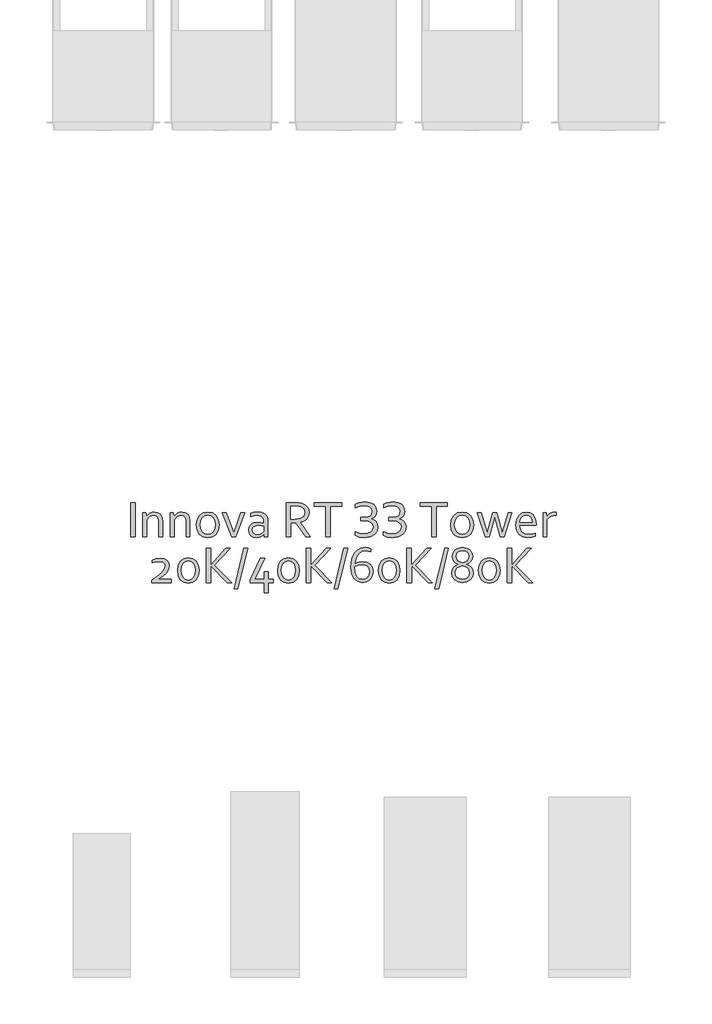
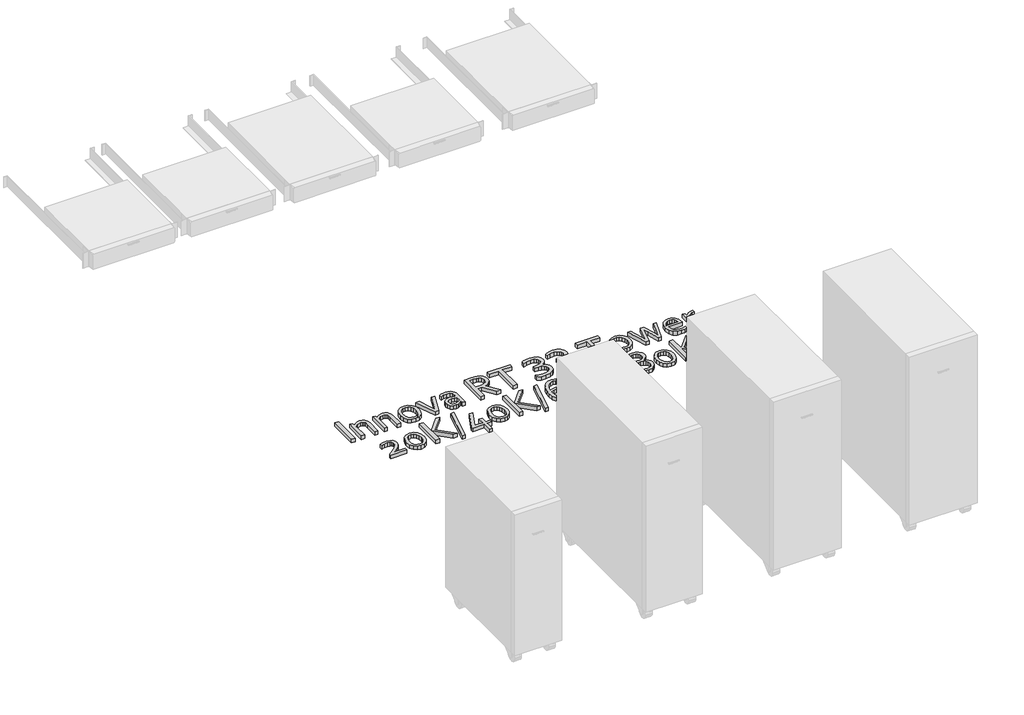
# One storey, part 7 of 10: 1 proxy.
"""IFC4 building model written with IfcOpenShell, lengths in millimetres."""

from ifc_helpers import new_model, si_unit, origin, origin_with_axes, place, context, project, spatial, polyline, outline, extrude, element, save

model = new_model("IFC4")

# Units and contexts
model_context = context("Model", 3, world=origin())
ifc_project = project(units=[si_unit("LENGTHUNIT", "METRE", prefix="MILLI")], contexts=[model_context])

# Site, building, storey
site = spatial("IfcSite", under=ifc_project)
building = spatial("IfcBuilding", under=site)
storey = spatial("IfcBuildingStorey", under=building, Name="Этаж 01", Elevation=0.0)

# Proxy
placement = place(None, origin())
element("IfcBuildingElementProxy", 1, Name="150 мм Corbel", ObjectType="150 мм Corbel", at=placement, inside=storey, context=model_context, shape_type="SweptSolid", body=[
    extrude(outline(polyline([(7939.4925994, -3344.4864996), (7939.4925994, -3193.2852077), (7959.0927668, -3193.2852077), (7959.0927668, -3344.4864996), (7939.4925994, -3344.4864996)])), origin_with_axes(), (0.0, 0.0, 1.0), 20.0),
    extrude(outline(polyline([(8009.4056967, -3252.8732169), (8016.1213791, -3246.0044082), (8023.9745712, -3240.3824851), (8033.4902775, -3236.619953), (8044.7559987, -3235.2855666), (8058.362365, -3237.2980838), (8069.365584, -3243.7950143), (8076.7593972, -3255.4982393), (8079.4937955, -3273.260891), (8079.4937955, -3344.4864996), (8062.693652, -3344.4864996), (8062.693652, -3275.4046594), (8061.348328, -3263.4444009), (8057.312356, -3255.3888633), (8050.7060496, -3250.8114805), (8041.6497222, -3249.2856862), (8024.1058223, -3254.5138559), (8009.4931974, -3268.8858537), (8009.4931974, -3344.4864996), (7992.6930539, -3344.4864996), (7992.6930539, -3238.0855905), (8006.0369179, -3238.0855905), (8009.4056967, -3252.8732169)])), origin_with_axes(), (0.0, 0.0, 1.0), 20.0),
    extrude(outline(polyline([(8129.8067254, -3252.8732169), (8136.5224078, -3246.0044082), (8144.3755999, -3240.3824851), (8153.8913062, -3236.619953), (8165.1570274, -3235.2855666), (8178.7633937, -3237.2980838), (8189.7666127, -3243.7950143), (8197.1604258, -3255.4982393), (8199.8948242, -3273.260891), (8199.8948242, -3344.4864996), (8183.0946807, -3344.4864996), (8183.0946807, -3275.4046594), (8181.7493567, -3263.4444009), (8177.7133847, -3255.3888633), (8171.1070782, -3250.8114805), (8162.0507509, -3249.2856862), (8144.506851, -3254.5138559), (8129.8942261, -3268.8858537), (8129.8942261, -3344.4864996), (8113.0940826, -3344.4864996), (8113.0940826, -3238.0855905), (8126.4379466, -3238.0855905), (8129.8067254, -3252.8732169)])), origin_with_axes(), (0.0, 0.0, 1.0), 20.0),
    extrude(outline(polyline([(8328.6959247, -3291.4172962), (8325.1302692, -3314.2331161), (8315.0239328, -3331.8863919), (8299.2081727, -3343.2614891), (8278.4267452, -3347.2865235), (8257.2296891, -3343.2614891), (8241.3483034, -3331.8863919), (8231.351343, -3314.2331161), (8227.8950634, -3291.4172962), (8231.4607189, -3268.4264747), (8241.5670552, -3250.7294485), (8257.4484409, -3239.310601), (8278.295494, -3235.2855666), (8299.4050494, -3239.310601), (8315.2864351, -3250.7294485), (8325.2396451, -3268.4264747), (8328.6959247, -3291.4172962)]), holes=[polyline([(8311.8957811, -3291.4172962), (8309.4020098, -3273.5452685), (8302.4238252, -3260.3107804), (8291.7706092, -3252.0857101), (8278.295494, -3249.2856862), (8264.8203789, -3252.0857101), (8254.1671629, -3260.3107804), (8247.1889783, -3273.5452685), (8244.695207, -3291.4172962), (8247.1889783, -3309.1580727), (8254.2327885, -3322.3269353), (8264.9297549, -3330.48638), (8278.4267452, -3333.2864039), (8291.8362347, -3330.48638), (8302.4238252, -3322.3269353), (8309.4020098, -3309.1580727), (8311.8957811, -3291.4172962)])]), origin_with_axes(), (0.0, 0.0, 1.0), 20.0),
    extrude(outline(polyline([(8391.6089622, -3326.8988493), (8402.3715541, -3297.2360959), (8423.896738, -3238.0855905), (8440.6968816, -3238.0855905), (8400.6652896, -3344.4864996), (8382.7276363, -3344.4864996), (8342.6960443, -3238.0855905), (8359.4961878, -3238.0855905), (8380.8901206, -3297.2360959), (8391.6089622, -3326.8988493)])), origin_with_axes(), (0.0, 0.0, 1.0), 20.0),
    extrude(outline(polyline([(8525.2226037, -3332.717649), (8519.4256792, -3338.0333194), (8512.0099909, -3342.7583598), (8502.8224124, -3346.061513), (8492.1910715, -3347.2865235), (8478.1690767, -3345.0333793), (8467.2096081, -3338.4051976), (8460.056422, -3327.7519816), (8457.4970251, -3313.5112349), (8460.3407994, -3299.5111153), (8468.3033674, -3289.0329008), (8480.6190977, -3282.4047192), (8496.5223585, -3280.0859494), (8511.7693638, -3281.5734621), (8524.2600955, -3284.9422408), (8524.6975993, -3277.3296758), (8524.1288444, -3268.9952296), (8522.203828, -3262.6295502), (8512.9287487, -3253.0700935), (8495.6473511, -3249.2856862), (8480.4440962, -3250.7731989), (8466.2908502, -3254.885734), (8466.2908502, -3241.1918671), (8472.6127793, -3238.8074717), (8480.2909699, -3236.9043304), (8488.8004176, -3235.7011951), (8497.7911194, -3235.2855666), (8512.4256194, -3236.7129225), (8524.0413437, -3240.9949904), (8532.7039177, -3247.6286408), (8538.478967, -3256.1107445), (8540.7977368, -3264.007687), (8541.4977428, -3273.4796429), (8541.4977428, -3344.4864996), (8527.1038698, -3344.4864996), (8525.2226037, -3332.717649)]), holes=[polyline([(8524.6975993, -3298.067353), (8513.081875, -3295.4642057), (8498.3161239, -3294.086069), (8480.662848, -3298.8548597), (8475.8885885, -3304.9033489), (8474.2971686, -3313.5112349), (8475.8940573, -3322.2613097), (8480.2690947, -3328.4519876), (8486.8535259, -3332.0832686), (8494.9910955, -3333.2864039), (8505.5786859, -3331.6457649), (8514.2850103, -3327.7301064), (8520.7600656, -3323.1800675), (8524.6975993, -3319.6362873), (8524.6975993, -3298.067353)])]), origin_with_axes(), (0.0, 0.0, 1.0), 20.0),
    extrude(outline(polyline([(8642.298604, -3282.8859733), (8642.298604, -3344.4864996), (8622.6984366, -3344.4864996), (8622.6984366, -3193.2852077), (8661.6800196, -3193.2852077), (8678.4801632, -3194.0289641), (8691.1240212, -3196.3914843), (8705.0147649, -3202.2540344), (8715.1867268, -3211.1791106), (8721.421155, -3222.9370236), (8723.4992978, -3237.2980838), (8720.5898979, -3253.8794755), (8712.408578, -3266.5670839), (8699.7865952, -3275.360909), (8683.4677058, -3280.392202), (8729.0993456, -3344.4864996), (8709.4991782, -3344.4864996), (8664.0425398, -3282.8859733), (8642.298604, -3282.8859733)]), holes=[polyline([(8642.298604, -3210.0853513), (8642.298604, -3266.0858297), (8659.973755, -3266.0858297), (8674.017625, -3265.5170749), (8684.4739644, -3263.4608073), (8698.8459622, -3253.9669762), (8703.8991303, -3236.9480808), (8699.064714, -3221.1104455), (8686.0052274, -3212.4916218), (8676.5770219, -3210.6541061), (8662.5987775, -3210.0853513), (8642.298604, -3210.0853513)])]), origin_with_axes(), (0.0, 0.0, 1.0), 20.0),
    extrude(outline(polyline([(8815.9000872, -3344.4864996), (8796.2999198, -3344.4864996), (8796.2999198, -3210.0853513), (8746.2057418, -3210.0853513), (8746.2057418, -3193.2852077), (8865.9942652, -3193.2852077), (8865.9942652, -3210.0853513), (8815.9000872, -3210.0853513), (8815.9000872, -3344.4864996)])), origin_with_axes(), (0.0, 0.0, 1.0), 20.0),
    extrude(outline(polyline([(8927.0697871, -3199.9790149), (8934.6823521, -3196.5664858), (8944.3730599, -3193.5695852), (8955.857533, -3191.3601913), (8968.7638933, -3190.4851838), (8990.6828306, -3193.2852077), (9006.8704689, -3201.3790269), (9016.8893045, -3214.263512), (9020.3018336, -3231.5667848), (9018.3330668, -3244.0356413), (9013.0173964, -3253.5732228), (9005.1860795, -3260.4857819), (8995.7578739, -3265.0358208), (9007.1329711, -3269.6733604), (9016.4518007, -3276.5421691), (9023.1674831, -3286.6703806), (9025.9018815, -3300.4298732), (9022.4237267, -3318.5862783), (9011.5080085, -3333.5051558), (8992.6297222, -3343.5677417), (8965.1763626, -3347.2865235), (8942.7761713, -3344.9021281), (8924.9260187, -3338.1426954), (8924.9260187, -3321.8675563), (8942.513669, -3328.145735), (8963.0325943, -3330.48638), (8981.8124423, -3328.5066756), (8995.3641206, -3322.5675623), (9003.5673156, -3312.9643553), (9006.301714, -3299.9923694), (9003.906381, -3289.1750895), (8996.7203821, -3281.1359583), (8984.7437173, -3276.1484157), (8967.9763866, -3274.4859015), (8951.0449919, -3274.4859015), (8951.0449919, -3257.685758), (8966.3138724, -3257.685758), (8982.895264, -3255.8263671), (8993.4828545, -3250.6200726), (8999.0829023, -3242.7012549), (9000.7016662, -3232.7480449), (8998.689149, -3222.4229567), (8992.4109703, -3214.3510127), (8981.604628, -3209.1447182), (8965.8326182, -3207.2853274), (8945.9480734, -3209.582222), (8927.0697871, -3215.6853991), (8927.0697871, -3199.9790149)])), origin_with_axes(), (0.0, 0.0, 1.0), 20.0),
    extrude(outline(polyline([(9050.2708397, -3199.9790149), (9057.8834047, -3196.5664858), (9067.5741125, -3193.5695852), (9079.0585856, -3191.3601913), (9091.9649459, -3190.4851838), (9113.8838832, -3193.2852077), (9130.0715215, -3201.3790269), (9140.0903571, -3214.263512), (9143.5028862, -3231.5667848), (9141.5341194, -3244.0356413), (9136.218449, -3253.5732228), (9128.3871321, -3260.4857819), (9118.9589265, -3265.0358208), (9130.3340237, -3269.6733604), (9139.6528533, -3276.5421691), (9146.3685357, -3286.6703806), (9149.1029341, -3300.4298732), (9145.6247794, -3318.5862783), (9134.7090611, -3333.5051558), (9115.8307748, -3343.5677417), (9088.3774152, -3347.2865235), (9065.9772239, -3344.9021281), (9048.1270714, -3338.1426954), (9048.1270714, -3321.8675563), (9065.7147216, -3328.145735), (9086.2336469, -3330.48638), (9105.0134949, -3328.5066756), (9118.5651732, -3322.5675623), (9126.7683682, -3312.9643553), (9129.5027666, -3299.9923694), (9127.1074336, -3289.1750895), (9119.9214347, -3281.1359583), (9107.9447699, -3276.1484157), (9091.1774392, -3274.4859015), (9074.2460445, -3274.4859015), (9074.2460445, -3257.685758), (9089.514925, -3257.685758), (9106.0963166, -3255.8263671), (9116.6839071, -3250.6200726), (9122.2839549, -3242.7012549), (9123.9027188, -3232.7480449), (9121.8902016, -3222.4229567), (9115.6120229, -3214.3510127), (9104.8056806, -3209.1447182), (9089.0336709, -3207.2853274), (9069.149126, -3209.582222), (9050.2708397, -3215.6853991), (9050.2708397, -3199.9790149)])), origin_with_axes(), (0.0, 0.0, 1.0), 20.0),
    extrude(outline(polyline([(9280.7040584, -3344.4864996), (9261.103891, -3344.4864996), (9261.103891, -3210.0853513), (9211.009713, -3210.0853513), (9211.009713, -3193.2852077), (9330.7982364, -3193.2852077), (9330.7982364, -3210.0853513), (9280.7040584, -3210.0853513), (9280.7040584, -3344.4864996)])), origin_with_axes(), (0.0, 0.0, 1.0), 20.0),
    extrude(outline(polyline([(9445.9054699, -3291.4172962), (9442.3398144, -3314.2331161), (9432.2334781, -3331.8863919), (9416.417718, -3343.2614891), (9395.6362904, -3347.2865235), (9374.4392343, -3343.2614891), (9358.5578486, -3331.8863919), (9348.5608882, -3314.2331161), (9345.1046087, -3291.4172962), (9348.6702641, -3268.4264747), (9358.7766005, -3250.7294485), (9374.6579862, -3239.310601), (9395.5050393, -3235.2855666), (9416.6145946, -3239.310601), (9432.4959803, -3250.7294485), (9442.4491904, -3268.4264747), (9445.9054699, -3291.4172962)]), holes=[polyline([(9429.1053264, -3291.4172962), (9426.6115551, -3273.5452685), (9419.6333704, -3260.3107804), (9408.9801544, -3252.0857101), (9395.5050393, -3249.2856862), (9382.0299242, -3252.0857101), (9371.3767081, -3260.3107804), (9364.3985235, -3273.5452685), (9361.9047522, -3291.4172962), (9364.3985235, -3309.1580727), (9371.4423337, -3322.3269353), (9382.1393001, -3330.48638), (9395.6362904, -3333.2864039), (9409.04578, -3330.48638), (9419.6333704, -3322.3269353), (9426.6115551, -3309.1580727), (9429.1053264, -3291.4172962)])]), origin_with_axes(), (0.0, 0.0, 1.0), 20.0),
    extrude(outline(polyline([(9538.2187586, -3255.6732408), (9531.6124522, -3281.0047072), (9514.506056, -3344.4864996), (9497.0496569, -3344.4864996), (9462.7056134, -3238.0855905), (9479.505757, -3238.0855905), (9499.7184297, -3304.3674068), (9505.7997316, -3325.3238359), (9512.1435358, -3302.048637), (9529.9061876, -3238.0855905), (9546.7063311, -3238.0855905), (9565.4314911, -3302.048637), (9571.6877946, -3325.3238359), (9577.9003476, -3304.3674068), (9597.1067617, -3238.0855905), (9613.9069053, -3238.0855905), (9579.5628618, -3344.4864996), (9561.9314612, -3344.4864996), (9544.7813147, -3281.0047072), (9538.2187586, -3255.6732408)])), origin_with_axes(), (0.0, 0.0, 1.0), 20.0),
    extrude(outline(polyline([(9686.0512717, -3333.2864039), (9701.8232814, -3331.8207664), (9716.0202777, -3327.686356), (9716.0202777, -3341.5114742), (9701.888907, -3345.7333852), (9683.8200026, -3347.2865235), (9662.3604443, -3344.3771236), (9645.3415488, -3334.9707933), (9634.5352065, -3317.9956482), (9630.7070488, -3292.7298074), (9634.6883328, -3267.4858417), (9645.2759233, -3249.6356892), (9660.5010534, -3238.8730972), (9678.482457, -3235.2855666), (9694.9763479, -3238.2168416), (9708.2764616, -3247.4481705), (9717.1796626, -3263.7014344), (9720.4390655, -3287.5672633), (9720.4390655, -3289.8204075), (9720.3078143, -3294.086069), (9646.5884345, -3294.086069), (9649.6728359, -3312.2862245), (9658.0947828, -3324.405078), (9670.6073897, -3331.1645108), (9686.0512717, -3333.2864039)]), holes=[polyline([(9677.7387006, -3249.2856862), (9666.2323523, -3251.7138319), (9656.9572731, -3258.3201384), (9650.5259681, -3268.0983469), (9647.5071923, -3280.0859494), (9703.5076708, -3280.0859494), (9701.8232814, -3267.988971), (9696.857614, -3258.2107625), (9688.8075452, -3251.6700816), (9677.7387006, -3249.2856862)])]), origin_with_axes(), (0.0, 0.0, 1.0), 20.0),
    extrude(outline(polyline([(9808.9023213, -3249.2856862), (9795.4709565, -3250.4450711), (9784.3146112, -3253.9669762), (9774.9082808, -3259.8076511), (9767.908221, -3268.0108462), (9767.908221, -3344.4864996), (9751.1080775, -3344.4864996), (9751.1080775, -3238.0855905), (9764.1019385, -3238.0855905), (9767.3394662, -3255.0169852), (9773.989523, -3247.273169), (9782.4552203, -3240.9949904), (9792.7803085, -3236.7949545), (9804.5710343, -3235.2855666), (9806.8460537, -3235.329317), (9808.9023213, -3235.4605681), (9808.9023213, -3249.2856862)])), origin_with_axes(), (0.0, 0.0, 1.0), 20.0),
    extrude(outline(polyline([(8061.0748882, -3531.3243143), (8084.2625863, -3530.8868106), (8117.9503741, -3530.8868106), (8117.9503741, -3544.8869302), (8032.6808956, -3544.8869302), (8032.6808956, -3535.3493487), (8056.4592237, -3517.5648218), (8075.2281341, -3501.7490616), (8087.6094899, -3487.0051857), (8092.0939032, -3472.5675623), (8090.5243585, -3463.9596763), (8085.8157245, -3457.6486848), (8078.1648779, -3453.7767768), (8067.7686953, -3452.4861407), (8050.7935503, -3454.0830294), (8033.8184053, -3458.0861886), (8033.8184053, -3446.0110854), (8049.5685398, -3440.7391654), (8070.1312155, -3438.4860211), (8086.2751035, -3440.7172902), (8098.5033329, -3447.2142207), (8106.1815235, -3457.7580608), (8108.8940467, -3472.2613097), (8105.3502664, -3488.6239495), (8095.5501827, -3503.2365743), (8080.3250526, -3517.0616925), (8061.0748882, -3531.3243143)])), origin_with_axes(), (0.0, 0.0, 1.0), 20.0),
    extrude(outline(polyline([(8240.4951711, -3491.8177268), (8237.2795186, -3513.9116655), (8227.9388138, -3531.6524421), (8213.0418115, -3543.4212927), (8192.9822651, -3547.6869541), (8172.5289654, -3543.4212927), (8157.5663376, -3531.6524421), (8148.4006342, -3513.9116655), (8145.2943577, -3491.8177268), (8148.5100102, -3469.5706617), (8157.850715, -3451.7642596), (8172.8133428, -3439.9516586), (8192.8947644, -3435.6859972), (8213.2605634, -3439.9516586), (8228.2231912, -3451.7642596), (8237.3888945, -3469.5706617), (8240.4951711, -3491.8177268)]), holes=[polyline([(8223.6950275, -3491.8177268), (8221.5075089, -3474.164451), (8215.316831, -3460.9299629), (8205.6479984, -3452.5955167), (8192.8947644, -3449.6861168), (8180.1415304, -3452.5955167), (8170.4289475, -3460.9299629), (8164.2382696, -3474.164451), (8162.0945012, -3491.8177268), (8164.2820199, -3509.3178763), (8170.4726978, -3522.508614), (8180.207156, -3530.7774346), (8193.0260155, -3533.6868345), (8205.7573743, -3530.7774346), (8215.4262069, -3522.508614), (8221.5512592, -3509.3178763), (8223.6950275, -3491.8177268)])]), origin_with_axes(), (0.0, 0.0, 1.0), 20.0),
    extrude(outline(polyline([(8271.2954342, -3544.8869302), (8271.2954342, -3393.6856384), (8290.8956017, -3393.6856384), (8290.8956017, -3468.3675264), (8358.0961758, -3393.6856384), (8377.6963433, -3393.6856384), (8307.7394956, -3468.9362813), (8383.2963912, -3544.8869302), (8363.6962237, -3544.8869302), (8291.1143536, -3470.8612977), (8291.1143536, -3544.8869302), (8271.2954342, -3544.8869302)])), origin_with_axes(), (0.0, 0.0, 1.0), 20.0),
    extrude(outline(polyline([(8393.7089801, -3572.8871694), (8436.3218442, -3393.6856384), (8452.9032359, -3393.6856384), (8410.2903718, -3572.8871694), (8393.7089801, -3572.8871694)])), origin_with_axes(), (0.0, 0.0, 1.0), 20.0),
    extrude(outline(polyline([(8484.9285095, -3530.8868106), (8501.5536515, -3530.8868106), (8526.0976112, -3530.8868106), (8526.0976112, -3496.8052694), (8542.8977548, -3496.8052694), (8542.8977548, -3530.8868106), (8564.9916935, -3530.8868106), (8564.9916935, -3545.9369392), (8542.8977548, -3545.9369392), (8542.8977548, -3589.687313), (8526.0976112, -3589.687313), (8526.0976112, -3544.8869302), (8465.1095902, -3544.8869302), (8465.1095902, -3532.111821), (8509.2537173, -3438.4860211), (8527.9351269, -3438.4860211), (8484.9285095, -3530.8868106)])), origin_with_axes(), (0.0, 0.0, 1.0), 20.0),
    extrude(outline(polyline([(8680.098927, -3491.8177268), (8676.8832745, -3513.9116655), (8667.5425697, -3531.6524421), (8652.6455674, -3543.4212927), (8632.586021, -3547.6869541), (8612.1327213, -3543.4212927), (8597.1700935, -3531.6524421), (8588.0043901, -3513.9116655), (8584.8981136, -3491.8177268), (8588.1137661, -3469.5706617), (8597.4544709, -3451.7642596), (8612.4170987, -3439.9516586), (8632.4985203, -3435.6859972), (8652.8643193, -3439.9516586), (8667.8269471, -3451.7642596), (8676.9926504, -3469.5706617), (8680.098927, -3491.8177268)]), holes=[polyline([(8663.2987834, -3491.8177268), (8661.1112648, -3474.164451), (8654.9205869, -3460.9299629), (8645.2517543, -3452.5955167), (8632.4985203, -3449.6861168), (8619.7452863, -3452.5955167), (8610.0327034, -3460.9299629), (8603.8420255, -3474.164451), (8601.6982571, -3491.8177268), (8603.8857758, -3509.3178763), (8610.0764537, -3522.508614), (8619.8109119, -3530.7774346), (8632.6297714, -3533.6868345), (8645.3611302, -3530.7774346), (8655.0299628, -3522.508614), (8661.1550151, -3509.3178763), (8663.2987834, -3491.8177268)])]), origin_with_axes(), (0.0, 0.0, 1.0), 20.0),
    extrude(outline(polyline([(8710.8991901, -3544.8869302), (8710.8991901, -3393.6856384), (8730.4993576, -3393.6856384), (8730.4993576, -3468.3675264), (8797.6999317, -3393.6856384), (8817.3000992, -3393.6856384), (8747.3432515, -3468.9362813), (8822.9001471, -3544.8869302), (8803.2999796, -3544.8869302), (8730.7181095, -3470.8612977), (8730.7181095, -3544.8869302), (8710.8991901, -3544.8869302)])), origin_with_axes(), (0.0, 0.0, 1.0), 20.0),
    extrude(outline(polyline([(8833.312736, -3572.8871694), (8875.9256001, -3393.6856384), (8892.5069918, -3393.6856384), (8849.8941277, -3572.8871694), (8833.312736, -3572.8871694)])), origin_with_axes(), (0.0, 0.0, 1.0), 20.0),
    extrude(outline(polyline([(8957.4762968, -3452.4861407), (8976.4858343, -3455.329915), (8991.5359628, -3463.7299868), (9001.379797, -3477.445729), (9004.901702, -3496.2802649), (9001.6641744, -3515.9241827), (8992.3015944, -3531.2805639), (8977.3389666, -3541.2775244), (8957.257545, -3544.8869302), (8935.9948633, -3540.2275154), (8920.1791032, -3526.9055266), (8910.3133939, -3505.9272223), (8906.9008647, -3478.2988613), (8908.6071293, -3455.5267917), (8913.7040479, -3434.7672394), (8922.1259948, -3417.0045876), (8934.2229732, -3403.1357191), (8950.0387333, -3394.1012669), (8969.1138963, -3390.8856144), (8983.7921467, -3392.5481286), (8994.0953597, -3396.0919089), (8994.0953597, -3410.4857819), (8983.3546429, -3406.6138738), (8970.3389067, -3404.885734), (8954.7200233, -3408.2107625), (8940.9824059, -3418.4702251), (8930.4823162, -3436.0797506), (8924.488515, -3461.3237162), (8940.8074044, -3454.8924113), (8957.4762968, -3452.4861407)]), holes=[polyline([(8958.0450517, -3530.8868106), (8969.8576526, -3528.6992919), (8979.3952341, -3522.2679869), (8985.7827887, -3511.7678972), (8988.1015585, -3497.461525), (8985.6515376, -3482.9582761), (8978.9796056, -3473.355069), (8969.0920211, -3468.083149), (8956.9950427, -3466.4862604), (8939.6917699, -3469.3519098), (8923.7010083, -3476.3738448), (8926.129154, -3500.4146752), (8933.2385898, -3517.4554458), (8944.154308, -3527.5617822), (8958.0450517, -3530.8868106)])]), origin_with_axes(), (0.0, 0.0, 1.0), 20.0),
    extrude(outline(polyline([(9122.5027068, -3491.8177268), (9119.2870543, -3513.9116655), (9109.9463495, -3531.6524421), (9095.0493472, -3543.4212927), (9074.9898009, -3547.6869541), (9054.5365011, -3543.4212927), (9039.5738733, -3531.6524421), (9030.40817, -3513.9116655), (9027.3018934, -3491.8177268), (9030.5175459, -3469.5706617), (9039.8582507, -3451.7642596), (9054.8208785, -3439.9516586), (9074.9023001, -3435.6859972), (9095.2680991, -3439.9516586), (9110.230727, -3451.7642596), (9119.3964303, -3469.5706617), (9122.5027068, -3491.8177268)]), holes=[polyline([(9105.7025633, -3491.8177268), (9103.5150446, -3474.164451), (9097.3243667, -3460.9299629), (9087.6555341, -3452.5955167), (9074.9023001, -3449.6861168), (9062.1490662, -3452.5955167), (9052.4364832, -3460.9299629), (9046.2458053, -3474.164451), (9044.102037, -3491.8177268), (9046.2895557, -3509.3178763), (9052.4802335, -3522.508614), (9062.2146917, -3530.7774346), (9075.0335512, -3533.6868345), (9087.76491, -3530.7774346), (9097.4337426, -3522.508614), (9103.558795, -3509.3178763), (9105.7025633, -3491.8177268)])]), origin_with_axes(), (0.0, 0.0, 1.0), 20.0),
    extrude(outline(polyline([(9153.30297, -3544.8869302), (9153.30297, -3393.6856384), (9172.9031374, -3393.6856384), (9172.9031374, -3468.3675264), (9240.1037116, -3393.6856384), (9259.703879, -3393.6856384), (9189.7470313, -3468.9362813), (9265.3039269, -3544.8869302), (9245.7037594, -3544.8869302), (9173.1218893, -3470.8612977), (9173.1218893, -3544.8869302), (9153.30297, -3544.8869302)])), origin_with_axes(), (0.0, 0.0, 1.0), 20.0),
    extrude(outline(polyline([(9275.7165158, -3572.8871694), (9318.3293799, -3393.6856384), (9334.9107716, -3393.6856384), (9292.2979075, -3572.8871694), (9275.7165158, -3572.8871694)])), origin_with_axes(), (0.0, 0.0, 1.0), 20.0),
    extrude(outline(polyline([(9396.9050512, -3544.8869302), (9377.4580101, -3541.7150281), (9362.4078815, -3532.9868285), (9352.7171737, -3519.817966), (9349.3046446, -3503.3240751), (9351.4921632, -3488.7552006), (9357.660966, -3477.7519816), (9366.9579204, -3470.0300406), (9378.2236416, -3465.5237521), (9367.854803, -3459.9893298), (9359.5641072, -3452.2892641), (9354.0734353, -3442.095427), (9352.1046685, -3429.5171945), (9355.8672006, -3412.9139276), (9365.9079114, -3400.7950741), (9380.2142836, -3393.3793857), (9396.9050512, -3390.8856144), (9413.5958189, -3393.3793857), (9427.9021911, -3400.7950741), (9437.9429019, -3412.9139276), (9441.705434, -3429.5171945), (9439.5179153, -3442.095427), (9433.6334901, -3452.2892641), (9424.9927912, -3459.9893298), (9414.4489511, -3465.0862484), (9425.8896739, -3470.0300406), (9435.5803817, -3477.7519816), (9442.1429378, -3488.7552006), (9444.5054579, -3503.3240751), (9441.0929288, -3519.817966), (9431.402221, -3532.9868285), (9416.3520924, -3541.7150281), (9396.9050512, -3544.8869302)]), holes=[polyline([(9396.9050512, -3472.0863082), (9384.9174488, -3474.9082073), (9375.1173651, -3480.7488822), (9368.5110587, -3489.8708351), (9366.1047881, -3502.5365684), (9368.4454331, -3514.3491693), (9374.8986132, -3523.3179959), (9384.6549466, -3528.9399189), (9396.9050512, -3530.8868106), (9409.286407, -3528.9399189), (9419.0427404, -3523.3179959), (9425.430295, -3514.3491693), (9427.7053144, -3502.5365684), (9425.2990438, -3489.8708351), (9418.6927374, -3480.7488822), (9408.8926537, -3474.9082073), (9396.9050512, -3472.0863082)]), polyline([(9396.9050512, -3404.885734), (9385.7268307, -3406.5044979), (9376.8236297, -3411.317039), (9370.9829548, -3419.1046055), (9368.904812, -3429.7359464), (9370.7423277, -3440.0938474), (9376.2548748, -3448.3298552), (9385.0924503, -3454.3564692), (9396.9050512, -3458.0861886), (9408.7176522, -3454.3564692), (9417.5552277, -3448.3298552), (9423.0677748, -3440.0938474), (9424.9052905, -3429.7359464), (9422.8271477, -3419.1046055), (9416.9864728, -3411.317039), (9408.1270221, -3406.5044979), (9396.9050512, -3404.885734)])]), origin_with_axes(), (0.0, 0.0, 1.0), 20.0),
    extrude(outline(polyline([(9562.1064627, -3491.8177268), (9558.8908102, -3513.9116655), (9549.5501054, -3531.6524421), (9534.6531031, -3543.4212927), (9514.5935568, -3547.6869541), (9494.140257, -3543.4212927), (9479.1776292, -3531.6524421), (9470.0119259, -3513.9116655), (9466.9056493, -3491.8177268), (9470.1213018, -3469.5706617), (9479.4620066, -3451.7642596), (9494.4246344, -3439.9516586), (9514.506056, -3435.6859972), (9534.871855, -3439.9516586), (9549.8344829, -3451.7642596), (9559.0001862, -3469.5706617), (9562.1064627, -3491.8177268)]), holes=[polyline([(9545.3063192, -3491.8177268), (9543.1188005, -3474.164451), (9536.9281226, -3460.9299629), (9527.25929, -3452.5955167), (9514.506056, -3449.6861168), (9501.7528221, -3452.5955167), (9492.0402391, -3460.9299629), (9485.8495612, -3474.164451), (9483.7057929, -3491.8177268), (9485.8933115, -3509.3178763), (9492.0839894, -3522.508614), (9501.8184476, -3530.7774346), (9514.6373071, -3533.6868345), (9527.3686659, -3530.7774346), (9537.0374985, -3522.508614), (9543.1625508, -3509.3178763), (9545.3063192, -3491.8177268)])]), origin_with_axes(), (0.0, 0.0, 1.0), 20.0),
    extrude(outline(polyline([(9592.9067259, -3544.8869302), (9592.9067259, -3393.6856384), (9612.5068933, -3393.6856384), (9612.5068933, -3468.3675264), (9679.7074675, -3393.6856384), (9699.3076349, -3393.6856384), (9629.3507872, -3468.9362813), (9704.9076828, -3544.8869302), (9685.3075153, -3544.8869302), (9612.7256452, -3470.8612977), (9612.7256452, -3544.8869302), (9592.9067259, -3544.8869302)])), origin_with_axes(), (0.0, 0.0, 1.0), 20.0),
])

save(model, "model.ifc")
